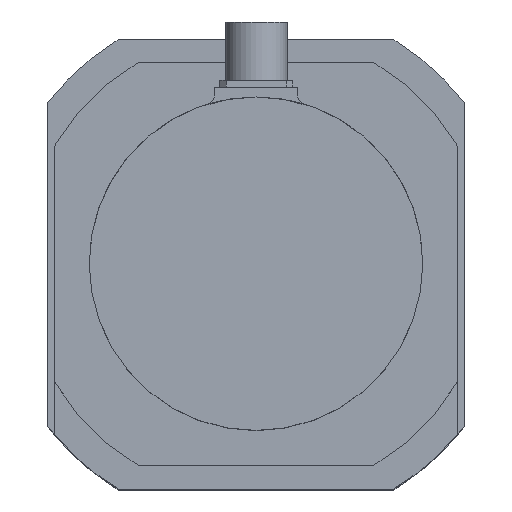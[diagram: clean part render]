
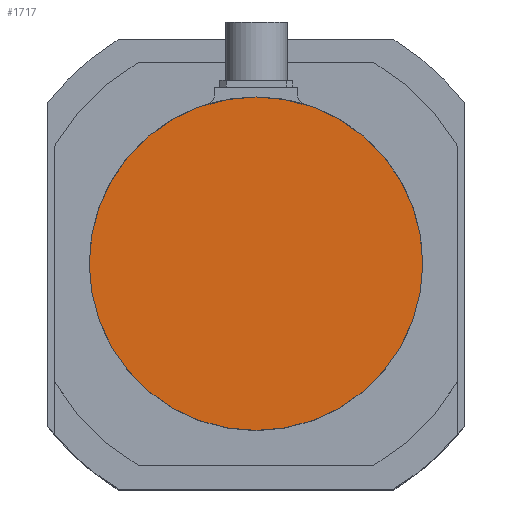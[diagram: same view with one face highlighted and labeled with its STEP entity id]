
A CAD part, top view. The second image highlights one B-rep face of the part: STEP entity #1717.
In plain terms, the highlighted planar face has unit normal (0, 0, 1).
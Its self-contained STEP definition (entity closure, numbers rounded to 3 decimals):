
#91 = CIRCLE ( 'NONE', #1707, 60. ) ;
#138 = EDGE_LOOP ( 'NONE', ( #1225, #1448 ) ) ;
#218 = CARTESIAN_POINT ( 'NONE',  ( 0., 0., 99. ) ) ;
#239 = CIRCLE ( 'NONE', #335, 60. ) ;
#265 = DIRECTION ( 'NONE',  ( 1., 0., 0. ) ) ;
#335 = AXIS2_PLACEMENT_3D ( 'NONE', #1522, #760, #457 ) ;
#415 = CARTESIAN_POINT ( 'NONE',  ( 0., 0., 99. ) ) ;
#457 = DIRECTION ( 'NONE',  ( 1., 0., 0. ) ) ;
#497 = DIRECTION ( 'NONE',  ( 0., 0., 1. ) ) ;
#522 = AXIS2_PLACEMENT_3D ( 'NONE', #415, #825, #265 ) ;
#560 = VERTEX_POINT ( 'NONE', #1199 ) ;
#760 = DIRECTION ( 'NONE',  ( 0., 0., 1. ) ) ;
#825 = DIRECTION ( 'NONE',  ( 0., 0., 1. ) ) ;
#886 = CARTESIAN_POINT ( 'NONE',  ( 60., 0., 99. ) ) ;
#942 = EDGE_CURVE ( 'NONE', #1684, #560, #91, .T. ) ;
#1121 = EDGE_CURVE ( 'NONE', #560, #1684, #239, .T. ) ;
#1199 = CARTESIAN_POINT ( 'NONE',  ( -60., 0., 99. ) ) ;
#1215 = PLANE ( 'NONE',  #522 ) ;
#1225 = ORIENTED_EDGE ( 'NONE', *, *, #942, .T. ) ;
#1300 = DIRECTION ( 'NONE',  ( 1., 0., 0. ) ) ;
#1448 = ORIENTED_EDGE ( 'NONE', *, *, #1121, .T. ) ;
#1512 = FACE_OUTER_BOUND ( 'NONE', #138, .T. ) ;
#1522 = CARTESIAN_POINT ( 'NONE',  ( 0., 0., 99. ) ) ;
#1684 = VERTEX_POINT ( 'NONE', #886 ) ;
#1707 = AXIS2_PLACEMENT_3D ( 'NONE', #218, #497, #1300 ) ;
#1717 = ADVANCED_FACE ( 'NONE', ( #1512 ), #1215, .T. ) ;
